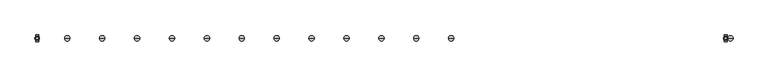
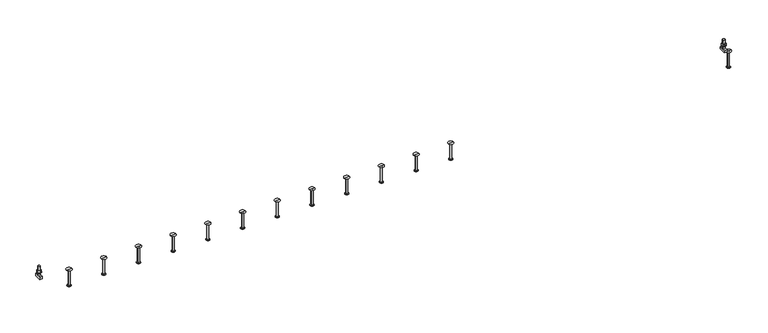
"""IFC4 building model written with IfcOpenShell, lengths in millimetres: fastener geometry, JTA-W JORDAHL® AnchorChannels : JTA-W L=6000 mm."""

from ifc_helpers import new_model, si_unit, point, frame, frame_2d, origin, place, context, project, spatial, polyline, circle_curve, trimmed, segment, composite_curve, outline, extrude, source, transform, mapped, element, save
from ifc_brep_helpers import plane_surface, cylinder_surface, revolved_surface, advanced_brep


def fastener_dd1fd8bc(model_context):
    return source(origin(), model_context, "Body", "SolidModel", [
        advanced_brep(
        [(3593.0, 0.0, -48.0), (3616.0, 0.0, -48.0), (3570.0, 0.0, -48.0), (3577.5, 0.0, -195.0), (3608.5, 0.0, -195.0), (3593.0, 0.0, -195.0), (3577.5, 0.0, -193.0), (3608.5, 0.0, -193.0), (3585.2, 0.0, -188.5544029), (3600.8, 0.0, -188.5544029), (3585.2, 0.0, -52.0), (3600.8, 0.0, -52.0)],
        [
            (0, 1),
            (1, 2, circle_curve(frame((3593.0, 0.0, -48.0), z_axis=(0.0, 0.0, 1.0), x_axis=(1.0, 0.0, 0.0)), 23.0)),
            (2, 0),
            (2, 1, circle_curve(frame((3593.0, 0.0, -48.0), z_axis=(0.0, 0.0, 1.0), x_axis=(1.0, 0.0, 0.0)), 23.0)),
            (3, 4, circle_curve(frame((3593.0, 0.0, -195.0), z_axis=(0.0, 0.0, -1.0), x_axis=(1.0, 0.0, 0.0)), 15.5)),
            (4, 5),
            (5, 3),
            (4, 3, circle_curve(frame((3593.0, 0.0, -195.0), z_axis=(0.0, 0.0, -1.0), x_axis=(1.0, 0.0, 0.0)), 15.5)),
            (6, 7, circle_curve(frame((3593.0, 0.0, -193.0), z_axis=(0.0, 0.0, -1.0), x_axis=(1.0, 0.0, 0.0)), 15.5)),
            (7, 4),
            (3, 6),
            (7, 6, circle_curve(frame((3593.0, 0.0, -193.0), z_axis=(0.0, 0.0, -1.0), x_axis=(1.0, 0.0, 0.0)), 15.5)),
            (8, 9, circle_curve(frame((3593.0, 0.0, -188.5544029), z_axis=(0.0, 0.0, -1.0), x_axis=(1.0, 0.0, 0.0)), 7.8)),
            (9, 7),
            (6, 8),
            (9, 8, circle_curve(frame((3593.0, 0.0, -188.5544029), z_axis=(0.0, 0.0, -1.0), x_axis=(1.0, 0.0, 0.0)), 7.8)),
            (10, 11, circle_curve(frame((3593.0, 0.0, -52.0), z_axis=(0.0, 0.0, -1.0), x_axis=(1.0, 0.0, 0.0)), 7.8)),
            (11, 9),
            (8, 10),
            (11, 10, circle_curve(frame((3593.0, 0.0, -52.0), z_axis=(0.0, 0.0, -1.0), x_axis=(1.0, 0.0, 0.0)), 7.8)),
            (1, 11),
            (10, 2),
        ],
        [
            plane_surface(frame((3593.0, 0.0, -48.0), z_axis=(0.0, 0.0, 1.0), x_axis=(1.0, 0.0, 0.0))),
            plane_surface(frame((3593.0, 0.0, -195.0), z_axis=(0.0, 0.0, -1.0), x_axis=(1.0, 0.0, 0.0))),
            cylinder_surface(frame((3593.0, 0.0, 2361.3150031), z_axis=(0.0, 0.0, 1.0), x_axis=(1.0, 0.0, 0.0)), 15.5),
            revolved_surface(polyline([(3608.5, 0.0, -193.0), (3600.8, 0.0, -188.5544029)]), (3593.0, 0.0, 2361.3150031), (0.0, 0.0, 1.0)),
            cylinder_surface(frame((3593.0, 0.0, 2361.3150031), z_axis=(0.0, 0.0, 1.0), x_axis=(1.0, 0.0, 0.0)), 7.8),
            revolved_surface(polyline([(3600.8, 0.0, -52.0), (3616.0, 0.0, -48.0)]), (3593.0, 0.0, 2361.3150031), (0.0, 0.0, 1.0)),
        ],
        [
            (0, [[1, 2, 3]]),
            (0, [[-3, 4, -1]]),
            (1, [[5, 6, 7]]),
            (1, [[8, -7, -6]]),
            (2, [[9, 10, -5, 11]]),
            (2, [[12, -11, -8, -10]]),
            (3, [[13, 14, -9, 15]]),
            (3, [[16, -15, -12, -14]]),
            (4, [[17, 18, -13, 19]]),
            (4, [[20, -19, -16, -18]]),
            (5, [[-2, 21, -17, 22]]),
            (5, [[-4, -22, -20, -21]]),
        ],
    ),
        advanced_brep(
        [(3296.5, 0.0, -48.0), (3319.5, 0.0, -48.0), (3273.5, 0.0, -48.0), (3281.0, 0.0, -195.0), (3312.0, 0.0, -195.0), (3296.5, 0.0, -195.0), (3281.0, 0.0, -193.0), (3312.0, 0.0, -193.0), (3288.7, 0.0, -188.5544029), (3304.3, 0.0, -188.5544029), (3288.7, 0.0, -52.0), (3304.3, 0.0, -52.0)],
        [
            (0, 1),
            (1, 2, circle_curve(frame((3296.5, 0.0, -48.0), z_axis=(0.0, 0.0, 1.0), x_axis=(1.0, 0.0, 0.0)), 23.0)),
            (2, 0),
            (2, 1, circle_curve(frame((3296.5, 0.0, -48.0), z_axis=(0.0, 0.0, 1.0), x_axis=(1.0, 0.0, 0.0)), 23.0)),
            (3, 4, circle_curve(frame((3296.5, 0.0, -195.0), z_axis=(0.0, 0.0, -1.0), x_axis=(1.0, 0.0, 0.0)), 15.5)),
            (4, 5),
            (5, 3),
            (4, 3, circle_curve(frame((3296.5, 0.0, -195.0), z_axis=(0.0, 0.0, -1.0), x_axis=(1.0, 0.0, 0.0)), 15.5)),
            (6, 7, circle_curve(frame((3296.5, 0.0, -193.0), z_axis=(0.0, 0.0, -1.0), x_axis=(1.0, 0.0, 0.0)), 15.5)),
            (7, 4),
            (3, 6),
            (7, 6, circle_curve(frame((3296.5, 0.0, -193.0), z_axis=(0.0, 0.0, -1.0), x_axis=(1.0, 0.0, 0.0)), 15.5)),
            (8, 9, circle_curve(frame((3296.5, 0.0, -188.5544029), z_axis=(0.0, 0.0, -1.0), x_axis=(1.0, 0.0, 0.0)), 7.8)),
            (9, 7),
            (6, 8),
            (9, 8, circle_curve(frame((3296.5, 0.0, -188.5544029), z_axis=(0.0, 0.0, -1.0), x_axis=(1.0, 0.0, 0.0)), 7.8)),
            (10, 11, circle_curve(frame((3296.5, 0.0, -52.0), z_axis=(0.0, 0.0, -1.0), x_axis=(1.0, 0.0, 0.0)), 7.8)),
            (11, 9),
            (8, 10),
            (11, 10, circle_curve(frame((3296.5, 0.0, -52.0), z_axis=(0.0, 0.0, -1.0), x_axis=(1.0, 0.0, 0.0)), 7.8)),
            (1, 11),
            (10, 2),
        ],
        [
            plane_surface(frame((3296.5, 0.0, -48.0), z_axis=(0.0, 0.0, 1.0), x_axis=(1.0, 0.0, 0.0))),
            plane_surface(frame((3296.5, 0.0, -195.0), z_axis=(0.0, 0.0, -1.0), x_axis=(1.0, 0.0, 0.0))),
            cylinder_surface(frame((3296.5, 0.0, 2361.3150031), z_axis=(0.0, 0.0, 1.0), x_axis=(1.0, 0.0, 0.0)), 15.5),
            revolved_surface(polyline([(3312.0, 0.0, -193.0), (3304.3, 0.0, -188.5544029)]), (3296.5, 0.0, 2361.3150031), (0.0, 0.0, 1.0)),
            cylinder_surface(frame((3296.5, 0.0, 2361.3150031), z_axis=(0.0, 0.0, 1.0), x_axis=(1.0, 0.0, 0.0)), 7.8),
            revolved_surface(polyline([(3304.3, 0.0, -52.0), (3319.5, 0.0, -48.0)]), (3296.5, 0.0, 2361.3150031), (0.0, 0.0, 1.0)),
        ],
        [
            (0, [[1, 2, 3]]),
            (0, [[-3, 4, -1]]),
            (1, [[5, 6, 7]]),
            (1, [[8, -7, -6]]),
            (2, [[9, 10, -5, 11]]),
            (2, [[12, -11, -8, -10]]),
            (3, [[13, 14, -9, 15]]),
            (3, [[16, -15, -12, -14]]),
            (4, [[17, 18, -13, 19]]),
            (4, [[20, -19, -16, -18]]),
            (5, [[-2, 21, -17, 22]]),
            (5, [[-4, -22, -20, -21]]),
        ],
    ),
        advanced_brep(
        [(3000.0, 0.0, -48.0), (3023.0, 0.0, -48.0), (2977.0, 0.0, -48.0), (2984.5, 0.0, -195.0), (3015.5, 0.0, -195.0), (3000.0, 0.0, -195.0), (2984.5, 0.0, -193.0), (3015.5, 0.0, -193.0), (2992.2, 0.0, -188.5544029), (3007.8, 0.0, -188.5544029), (2992.2, 0.0, -52.0), (3007.8, 0.0, -52.0)],
        [
            (0, 1),
            (1, 2, circle_curve(frame((3000.0, 0.0, -48.0), z_axis=(0.0, 0.0, 1.0), x_axis=(1.0, 0.0, 0.0)), 23.0)),
            (2, 0),
            (2, 1, circle_curve(frame((3000.0, 0.0, -48.0), z_axis=(0.0, 0.0, 1.0), x_axis=(1.0, 0.0, 0.0)), 23.0)),
            (3, 4, circle_curve(frame((3000.0, 0.0, -195.0), z_axis=(0.0, 0.0, -1.0), x_axis=(1.0, 0.0, 0.0)), 15.5)),
            (4, 5),
            (5, 3),
            (4, 3, circle_curve(frame((3000.0, 0.0, -195.0), z_axis=(0.0, 0.0, -1.0), x_axis=(1.0, 0.0, 0.0)), 15.5)),
            (6, 7, circle_curve(frame((3000.0, 0.0, -193.0), z_axis=(0.0, 0.0, -1.0), x_axis=(1.0, 0.0, 0.0)), 15.5)),
            (7, 4),
            (3, 6),
            (7, 6, circle_curve(frame((3000.0, 0.0, -193.0), z_axis=(0.0, 0.0, -1.0), x_axis=(1.0, 0.0, 0.0)), 15.5)),
            (8, 9, circle_curve(frame((3000.0, 0.0, -188.5544029), z_axis=(0.0, 0.0, -1.0), x_axis=(1.0, 0.0, 0.0)), 7.8)),
            (9, 7),
            (6, 8),
            (9, 8, circle_curve(frame((3000.0, 0.0, -188.5544029), z_axis=(0.0, 0.0, -1.0), x_axis=(1.0, 0.0, 0.0)), 7.8)),
            (10, 11, circle_curve(frame((3000.0, 0.0, -52.0), z_axis=(0.0, 0.0, -1.0), x_axis=(1.0, 0.0, 0.0)), 7.8)),
            (11, 9),
            (8, 10),
            (11, 10, circle_curve(frame((3000.0, 0.0, -52.0), z_axis=(0.0, 0.0, -1.0), x_axis=(1.0, 0.0, 0.0)), 7.8)),
            (1, 11),
            (10, 2),
        ],
        [
            plane_surface(frame((3000.0, 0.0, -48.0), z_axis=(0.0, 0.0, 1.0), x_axis=(1.0, 0.0, 0.0))),
            plane_surface(frame((3000.0, 0.0, -195.0), z_axis=(0.0, 0.0, -1.0), x_axis=(1.0, 0.0, 0.0))),
            cylinder_surface(frame((3000.0, 0.0, 2361.3150031), z_axis=(0.0, 0.0, 1.0), x_axis=(1.0, 0.0, 0.0)), 15.5),
            revolved_surface(polyline([(3015.5, 0.0, -193.0), (3007.8, 0.0, -188.5544029)]), (3000.0, 0.0, 2361.3150031), (0.0, 0.0, 1.0)),
            cylinder_surface(frame((3000.0, 0.0, 2361.3150031), z_axis=(0.0, 0.0, 1.0), x_axis=(1.0, 0.0, 0.0)), 7.8),
            revolved_surface(polyline([(3007.8, 0.0, -52.0), (3023.0, 0.0, -48.0)]), (3000.0, 0.0, 2361.3150031), (0.0, 0.0, 1.0)),
        ],
        [
            (0, [[1, 2, 3]]),
            (0, [[-3, 4, -1]]),
            (1, [[5, 6, 7]]),
            (1, [[8, -7, -6]]),
            (2, [[9, 10, -5, 11]]),
            (2, [[12, -11, -8, -10]]),
            (3, [[13, 14, -9, 15]]),
            (3, [[16, -15, -12, -14]]),
            (4, [[17, 18, -13, 19]]),
            (4, [[20, -19, -16, -18]]),
            (5, [[-2, 21, -17, 22]]),
            (5, [[-4, -22, -20, -21]]),
        ],
    ),
        advanced_brep(
        [(2703.5, 0.0, -48.0), (2726.5, 0.0, -48.0), (2680.5, 0.0, -48.0), (2688.0, 0.0, -195.0), (2719.0, 0.0, -195.0), (2703.5, 0.0, -195.0), (2688.0, 0.0, -193.0), (2719.0, 0.0, -193.0), (2695.7, 0.0, -188.5544029), (2711.3, 0.0, -188.5544029), (2695.7, 0.0, -52.0), (2711.3, 0.0, -52.0)],
        [
            (0, 1),
            (1, 2, circle_curve(frame((2703.5, 0.0, -48.0), z_axis=(0.0, 0.0, 1.0), x_axis=(1.0, 0.0, 0.0)), 23.0)),
            (2, 0),
            (2, 1, circle_curve(frame((2703.5, 0.0, -48.0), z_axis=(0.0, 0.0, 1.0), x_axis=(1.0, 0.0, 0.0)), 23.0)),
            (3, 4, circle_curve(frame((2703.5, 0.0, -195.0), z_axis=(0.0, 0.0, -1.0), x_axis=(1.0, 0.0, 0.0)), 15.5)),
            (4, 5),
            (5, 3),
            (4, 3, circle_curve(frame((2703.5, 0.0, -195.0), z_axis=(0.0, 0.0, -1.0), x_axis=(1.0, 0.0, 0.0)), 15.5)),
            (6, 7, circle_curve(frame((2703.5, 0.0, -193.0), z_axis=(0.0, 0.0, -1.0), x_axis=(1.0, 0.0, 0.0)), 15.5)),
            (7, 4),
            (3, 6),
            (7, 6, circle_curve(frame((2703.5, 0.0, -193.0), z_axis=(0.0, 0.0, -1.0), x_axis=(1.0, 0.0, 0.0)), 15.5)),
            (8, 9, circle_curve(frame((2703.5, 0.0, -188.5544029), z_axis=(0.0, 0.0, -1.0), x_axis=(1.0, 0.0, 0.0)), 7.8)),
            (9, 7),
            (6, 8),
            (9, 8, circle_curve(frame((2703.5, 0.0, -188.5544029), z_axis=(0.0, 0.0, -1.0), x_axis=(1.0, 0.0, 0.0)), 7.8)),
            (10, 11, circle_curve(frame((2703.5, 0.0, -52.0), z_axis=(0.0, 0.0, -1.0), x_axis=(1.0, 0.0, 0.0)), 7.8)),
            (11, 9),
            (8, 10),
            (11, 10, circle_curve(frame((2703.5, 0.0, -52.0), z_axis=(0.0, 0.0, -1.0), x_axis=(1.0, 0.0, 0.0)), 7.8)),
            (1, 11),
            (10, 2),
        ],
        [
            plane_surface(frame((2703.5, 0.0, -48.0), z_axis=(0.0, 0.0, 1.0), x_axis=(1.0, 0.0, 0.0))),
            plane_surface(frame((2703.5, 0.0, -195.0), z_axis=(0.0, 0.0, -1.0), x_axis=(1.0, 0.0, 0.0))),
            cylinder_surface(frame((2703.5, 0.0, 2361.3150031), z_axis=(0.0, 0.0, 1.0), x_axis=(1.0, 0.0, 0.0)), 15.5),
            revolved_surface(polyline([(2719.0, 0.0, -193.0), (2711.3, 0.0, -188.5544029)]), (2703.5, 0.0, 2361.3150031), (0.0, 0.0, 1.0)),
            cylinder_surface(frame((2703.5, 0.0, 2361.3150031), z_axis=(0.0, 0.0, 1.0), x_axis=(1.0, 0.0, 0.0)), 7.8),
            revolved_surface(polyline([(2711.3, 0.0, -52.0), (2726.5, 0.0, -48.0)]), (2703.5, 0.0, 2361.3150031), (0.0, 0.0, 1.0)),
        ],
        [
            (0, [[1, 2, 3]]),
            (0, [[-3, 4, -1]]),
            (1, [[5, 6, 7]]),
            (1, [[8, -7, -6]]),
            (2, [[9, 10, -5, 11]]),
            (2, [[12, -11, -8, -10]]),
            (3, [[13, 14, -9, 15]]),
            (3, [[16, -15, -12, -14]]),
            (4, [[17, 18, -13, 19]]),
            (4, [[20, -19, -16, -18]]),
            (5, [[-2, 21, -17, 22]]),
            (5, [[-4, -22, -20, -21]]),
        ],
    ),
        advanced_brep(
        [(2407.0, 0.0, -48.0), (2430.0, 0.0, -48.0), (2384.0, 0.0, -48.0), (2391.5, 0.0, -195.0), (2422.5, 0.0, -195.0), (2407.0, 0.0, -195.0), (2391.5, 0.0, -193.0), (2422.5, 0.0, -193.0), (2399.2, 0.0, -188.5544029), (2414.8, 0.0, -188.5544029), (2399.2, 0.0, -52.0), (2414.8, 0.0, -52.0)],
        [
            (0, 1),
            (1, 2, circle_curve(frame((2407.0, 0.0, -48.0), z_axis=(0.0, 0.0, 1.0), x_axis=(1.0, 0.0, 0.0)), 23.0)),
            (2, 0),
            (2, 1, circle_curve(frame((2407.0, 0.0, -48.0), z_axis=(0.0, 0.0, 1.0), x_axis=(1.0, 0.0, 0.0)), 23.0)),
            (3, 4, circle_curve(frame((2407.0, 0.0, -195.0), z_axis=(0.0, 0.0, -1.0), x_axis=(1.0, 0.0, 0.0)), 15.5)),
            (4, 5),
            (5, 3),
            (4, 3, circle_curve(frame((2407.0, 0.0, -195.0), z_axis=(0.0, 0.0, -1.0), x_axis=(1.0, 0.0, 0.0)), 15.5)),
            (6, 7, circle_curve(frame((2407.0, 0.0, -193.0), z_axis=(0.0, 0.0, -1.0), x_axis=(1.0, 0.0, 0.0)), 15.5)),
            (7, 4),
            (3, 6),
            (7, 6, circle_curve(frame((2407.0, 0.0, -193.0), z_axis=(0.0, 0.0, -1.0), x_axis=(1.0, 0.0, 0.0)), 15.5)),
            (8, 9, circle_curve(frame((2407.0, 0.0, -188.5544029), z_axis=(0.0, 0.0, -1.0), x_axis=(1.0, 0.0, 0.0)), 7.8)),
            (9, 7),
            (6, 8),
            (9, 8, circle_curve(frame((2407.0, 0.0, -188.5544029), z_axis=(0.0, 0.0, -1.0), x_axis=(1.0, 0.0, 0.0)), 7.8)),
            (10, 11, circle_curve(frame((2407.0, 0.0, -52.0), z_axis=(0.0, 0.0, -1.0), x_axis=(1.0, 0.0, 0.0)), 7.8)),
            (11, 9),
            (8, 10),
            (11, 10, circle_curve(frame((2407.0, 0.0, -52.0), z_axis=(0.0, 0.0, -1.0), x_axis=(1.0, 0.0, 0.0)), 7.8)),
            (1, 11),
            (10, 2),
        ],
        [
            plane_surface(frame((2407.0, 0.0, -48.0), z_axis=(0.0, 0.0, 1.0), x_axis=(1.0, 0.0, 0.0))),
            plane_surface(frame((2407.0, 0.0, -195.0), z_axis=(0.0, 0.0, -1.0), x_axis=(1.0, 0.0, 0.0))),
            cylinder_surface(frame((2407.0, 0.0, 2361.3150031), z_axis=(0.0, 0.0, 1.0), x_axis=(1.0, 0.0, 0.0)), 15.5),
            revolved_surface(polyline([(2422.5, 0.0, -193.0), (2414.8, 0.0, -188.5544029)]), (2407.0, 0.0, 2361.3150031), (0.0, 0.0, 1.0)),
            cylinder_surface(frame((2407.0, 0.0, 2361.3150031), z_axis=(0.0, 0.0, 1.0), x_axis=(1.0, 0.0, 0.0)), 7.8),
            revolved_surface(polyline([(2414.8, 0.0, -52.0), (2430.0, 0.0, -48.0)]), (2407.0, 0.0, 2361.3150031), (0.0, 0.0, 1.0)),
        ],
        [
            (0, [[1, 2, 3]]),
            (0, [[-3, 4, -1]]),
            (1, [[5, 6, 7]]),
            (1, [[8, -7, -6]]),
            (2, [[9, 10, -5, 11]]),
            (2, [[12, -11, -8, -10]]),
            (3, [[13, 14, -9, 15]]),
            (3, [[16, -15, -12, -14]]),
            (4, [[17, 18, -13, 19]]),
            (4, [[20, -19, -16, -18]]),
            (5, [[-2, 21, -17, 22]]),
            (5, [[-4, -22, -20, -21]]),
        ],
    ),
        advanced_brep(
        [(2110.5, 0.0, -48.0), (2133.5, 0.0, -48.0), (2087.5, 0.0, -48.0), (2095.0, 0.0, -195.0), (2126.0, 0.0, -195.0), (2110.5, 0.0, -195.0), (2095.0, 0.0, -193.0), (2126.0, 0.0, -193.0), (2102.7, 0.0, -188.5544029), (2118.3, 0.0, -188.5544029), (2102.7, 0.0, -52.0), (2118.3, 0.0, -52.0)],
        [
            (0, 1),
            (1, 2, circle_curve(frame((2110.5, 0.0, -48.0), z_axis=(0.0, 0.0, 1.0), x_axis=(1.0, 0.0, 0.0)), 23.0)),
            (2, 0),
            (2, 1, circle_curve(frame((2110.5, 0.0, -48.0), z_axis=(0.0, 0.0, 1.0), x_axis=(1.0, 0.0, 0.0)), 23.0)),
            (3, 4, circle_curve(frame((2110.5, 0.0, -195.0), z_axis=(0.0, 0.0, -1.0), x_axis=(1.0, 0.0, 0.0)), 15.5)),
            (4, 5),
            (5, 3),
            (4, 3, circle_curve(frame((2110.5, 0.0, -195.0), z_axis=(0.0, 0.0, -1.0), x_axis=(1.0, 0.0, 0.0)), 15.5)),
            (6, 7, circle_curve(frame((2110.5, 0.0, -193.0), z_axis=(0.0, 0.0, -1.0), x_axis=(1.0, 0.0, 0.0)), 15.5)),
            (7, 4),
            (3, 6),
            (7, 6, circle_curve(frame((2110.5, 0.0, -193.0), z_axis=(0.0, 0.0, -1.0), x_axis=(1.0, 0.0, 0.0)), 15.5)),
            (8, 9, circle_curve(frame((2110.5, 0.0, -188.5544029), z_axis=(0.0, 0.0, -1.0), x_axis=(1.0, 0.0, 0.0)), 7.8)),
            (9, 7),
            (6, 8),
            (9, 8, circle_curve(frame((2110.5, 0.0, -188.5544029), z_axis=(0.0, 0.0, -1.0), x_axis=(1.0, 0.0, 0.0)), 7.8)),
            (10, 11, circle_curve(frame((2110.5, 0.0, -52.0), z_axis=(0.0, 0.0, -1.0), x_axis=(1.0, 0.0, 0.0)), 7.8)),
            (11, 9),
            (8, 10),
            (11, 10, circle_curve(frame((2110.5, 0.0, -52.0), z_axis=(0.0, 0.0, -1.0), x_axis=(1.0, 0.0, 0.0)), 7.8)),
            (1, 11),
            (10, 2),
        ],
        [
            plane_surface(frame((2110.5, 0.0, -48.0), z_axis=(0.0, 0.0, 1.0), x_axis=(1.0, 0.0, 0.0))),
            plane_surface(frame((2110.5, 0.0, -195.0), z_axis=(0.0, 0.0, -1.0), x_axis=(1.0, 0.0, 0.0))),
            cylinder_surface(frame((2110.5, 0.0, 2361.3150031), z_axis=(0.0, 0.0, 1.0), x_axis=(1.0, 0.0, 0.0)), 15.5),
            revolved_surface(polyline([(2126.0, 0.0, -193.0), (2118.3, 0.0, -188.5544029)]), (2110.5, 0.0, 2361.3150031), (0.0, 0.0, 1.0)),
            cylinder_surface(frame((2110.5, 0.0, 2361.3150031), z_axis=(0.0, 0.0, 1.0), x_axis=(1.0, 0.0, 0.0)), 7.8),
            revolved_surface(polyline([(2118.3, 0.0, -52.0), (2133.5, 0.0, -48.0)]), (2110.5, 0.0, 2361.3150031), (0.0, 0.0, 1.0)),
        ],
        [
            (0, [[1, 2, 3]]),
            (0, [[-3, 4, -1]]),
            (1, [[5, 6, 7]]),
            (1, [[8, -7, -6]]),
            (2, [[9, 10, -5, 11]]),
            (2, [[12, -11, -8, -10]]),
            (3, [[13, 14, -9, 15]]),
            (3, [[16, -15, -12, -14]]),
            (4, [[17, 18, -13, 19]]),
            (4, [[20, -19, -16, -18]]),
            (5, [[-2, 21, -17, 22]]),
            (5, [[-4, -22, -20, -21]]),
        ],
    ),
        advanced_brep(
        [(1814.0, 0.0, -48.0), (1837.0, 0.0, -48.0), (1791.0, 0.0, -48.0), (1798.5, 0.0, -195.0), (1829.5, 0.0, -195.0), (1814.0, 0.0, -195.0), (1798.5, 0.0, -193.0), (1829.5, 0.0, -193.0), (1806.2, 0.0, -188.5544029), (1821.8, 0.0, -188.5544029), (1806.2, 0.0, -52.0), (1821.8, 0.0, -52.0)],
        [
            (0, 1),
            (1, 2, circle_curve(frame((1814.0, 0.0, -48.0), z_axis=(0.0, 0.0, 1.0), x_axis=(1.0, 0.0, 0.0)), 23.0)),
            (2, 0),
            (2, 1, circle_curve(frame((1814.0, 0.0, -48.0), z_axis=(0.0, 0.0, 1.0), x_axis=(1.0, 0.0, 0.0)), 23.0)),
            (3, 4, circle_curve(frame((1814.0, 0.0, -195.0), z_axis=(0.0, 0.0, -1.0), x_axis=(1.0, 0.0, 0.0)), 15.5)),
            (4, 5),
            (5, 3),
            (4, 3, circle_curve(frame((1814.0, 0.0, -195.0), z_axis=(0.0, 0.0, -1.0), x_axis=(1.0, 0.0, 0.0)), 15.5)),
            (6, 7, circle_curve(frame((1814.0, 0.0, -193.0), z_axis=(0.0, 0.0, -1.0), x_axis=(1.0, 0.0, 0.0)), 15.5)),
            (7, 4),
            (3, 6),
            (7, 6, circle_curve(frame((1814.0, 0.0, -193.0), z_axis=(0.0, 0.0, -1.0), x_axis=(1.0, 0.0, 0.0)), 15.5)),
            (8, 9, circle_curve(frame((1814.0, 0.0, -188.5544029), z_axis=(0.0, 0.0, -1.0), x_axis=(1.0, 0.0, 0.0)), 7.8)),
            (9, 7),
            (6, 8),
            (9, 8, circle_curve(frame((1814.0, 0.0, -188.5544029), z_axis=(0.0, 0.0, -1.0), x_axis=(1.0, 0.0, 0.0)), 7.8)),
            (10, 11, circle_curve(frame((1814.0, 0.0, -52.0), z_axis=(0.0, 0.0, -1.0), x_axis=(1.0, 0.0, 0.0)), 7.8)),
            (11, 9),
            (8, 10),
            (11, 10, circle_curve(frame((1814.0, 0.0, -52.0), z_axis=(0.0, 0.0, -1.0), x_axis=(1.0, 0.0, 0.0)), 7.8)),
            (1, 11),
            (10, 2),
        ],
        [
            plane_surface(frame((1814.0, 0.0, -48.0), z_axis=(0.0, 0.0, 1.0), x_axis=(1.0, 0.0, 0.0))),
            plane_surface(frame((1814.0, 0.0, -195.0), z_axis=(0.0, 0.0, -1.0), x_axis=(1.0, 0.0, 0.0))),
            cylinder_surface(frame((1814.0, 0.0, 2361.3150031), z_axis=(0.0, 0.0, 1.0), x_axis=(1.0, 0.0, 0.0)), 15.5),
            revolved_surface(polyline([(1829.5, 0.0, -193.0), (1821.8, 0.0, -188.5544029)]), (1814.0, 0.0, 2361.3150031), (0.0, 0.0, 1.0)),
            cylinder_surface(frame((1814.0, 0.0, 2361.3150031), z_axis=(0.0, 0.0, 1.0), x_axis=(1.0, 0.0, 0.0)), 7.8),
            revolved_surface(polyline([(1821.8, 0.0, -52.0), (1837.0, 0.0, -48.0)]), (1814.0, 0.0, 2361.3150031), (0.0, 0.0, 1.0)),
        ],
        [
            (0, [[1, 2, 3]]),
            (0, [[-3, 4, -1]]),
            (1, [[5, 6, 7]]),
            (1, [[8, -7, -6]]),
            (2, [[9, 10, -5, 11]]),
            (2, [[12, -11, -8, -10]]),
            (3, [[13, 14, -9, 15]]),
            (3, [[16, -15, -12, -14]]),
            (4, [[17, 18, -13, 19]]),
            (4, [[20, -19, -16, -18]]),
            (5, [[-2, 21, -17, 22]]),
            (5, [[-4, -22, -20, -21]]),
        ],
    ),
        advanced_brep(
        [(1517.5, 0.0, -48.0), (1540.5, 0.0, -48.0), (1494.5, 0.0, -48.0), (1502.0, 0.0, -195.0), (1533.0, 0.0, -195.0), (1517.5, 0.0, -195.0), (1502.0, 0.0, -193.0), (1533.0, 0.0, -193.0), (1509.7, 0.0, -188.5544029), (1525.3, 0.0, -188.5544029), (1509.7, 0.0, -52.0), (1525.3, 0.0, -52.0)],
        [
            (0, 1),
            (1, 2, circle_curve(frame((1517.5, 0.0, -48.0), z_axis=(0.0, 0.0, 1.0), x_axis=(1.0, 0.0, 0.0)), 23.0)),
            (2, 0),
            (2, 1, circle_curve(frame((1517.5, 0.0, -48.0), z_axis=(0.0, 0.0, 1.0), x_axis=(1.0, 0.0, 0.0)), 23.0)),
            (3, 4, circle_curve(frame((1517.5, 0.0, -195.0), z_axis=(0.0, 0.0, -1.0), x_axis=(1.0, 0.0, 0.0)), 15.5)),
            (4, 5),
            (5, 3),
            (4, 3, circle_curve(frame((1517.5, 0.0, -195.0), z_axis=(0.0, 0.0, -1.0), x_axis=(1.0, 0.0, 0.0)), 15.5)),
            (6, 7, circle_curve(frame((1517.5, 0.0, -193.0), z_axis=(0.0, 0.0, -1.0), x_axis=(1.0, 0.0, 0.0)), 15.5)),
            (7, 4),
            (3, 6),
            (7, 6, circle_curve(frame((1517.5, 0.0, -193.0), z_axis=(0.0, 0.0, -1.0), x_axis=(1.0, 0.0, 0.0)), 15.5)),
            (8, 9, circle_curve(frame((1517.5, 0.0, -188.5544029), z_axis=(0.0, 0.0, -1.0), x_axis=(1.0, 0.0, 0.0)), 7.8)),
            (9, 7),
            (6, 8),
            (9, 8, circle_curve(frame((1517.5, 0.0, -188.5544029), z_axis=(0.0, 0.0, -1.0), x_axis=(1.0, 0.0, 0.0)), 7.8)),
            (10, 11, circle_curve(frame((1517.5, 0.0, -52.0), z_axis=(0.0, 0.0, -1.0), x_axis=(1.0, 0.0, 0.0)), 7.8)),
            (11, 9),
            (8, 10),
            (11, 10, circle_curve(frame((1517.5, 0.0, -52.0), z_axis=(0.0, 0.0, -1.0), x_axis=(1.0, 0.0, 0.0)), 7.8)),
            (1, 11),
            (10, 2),
        ],
        [
            plane_surface(frame((1517.5, 0.0, -48.0), z_axis=(0.0, 0.0, 1.0), x_axis=(1.0, 0.0, 0.0))),
            plane_surface(frame((1517.5, 0.0, -195.0), z_axis=(0.0, 0.0, -1.0), x_axis=(1.0, 0.0, 0.0))),
            cylinder_surface(frame((1517.5, 0.0, 2361.3150031), z_axis=(0.0, 0.0, 1.0), x_axis=(1.0, 0.0, 0.0)), 15.5),
            revolved_surface(polyline([(1533.0, 0.0, -193.0), (1525.3, 0.0, -188.5544029)]), (1517.5, 0.0, 2361.3150031), (0.0, 0.0, 1.0)),
            cylinder_surface(frame((1517.5, 0.0, 2361.3150031), z_axis=(0.0, 0.0, 1.0), x_axis=(1.0, 0.0, 0.0)), 7.8),
            revolved_surface(polyline([(1525.3, 0.0, -52.0), (1540.5, 0.0, -48.0)]), (1517.5, 0.0, 2361.3150031), (0.0, 0.0, 1.0)),
        ],
        [
            (0, [[1, 2, 3]]),
            (0, [[-3, 4, -1]]),
            (1, [[5, 6, 7]]),
            (1, [[8, -7, -6]]),
            (2, [[9, 10, -5, 11]]),
            (2, [[12, -11, -8, -10]]),
            (3, [[13, 14, -9, 15]]),
            (3, [[16, -15, -12, -14]]),
            (4, [[17, 18, -13, 19]]),
            (4, [[20, -19, -16, -18]]),
            (5, [[-2, 21, -17, 22]]),
            (5, [[-4, -22, -20, -21]]),
        ],
    ),
        advanced_brep(
        [(1221.0, 0.0, -48.0), (1244.0, 0.0, -48.0), (1198.0, 0.0, -48.0), (1205.5, 0.0, -195.0), (1236.5, 0.0, -195.0), (1221.0, 0.0, -195.0), (1205.5, 0.0, -193.0), (1236.5, 0.0, -193.0), (1213.2, 0.0, -188.5544029), (1228.8, 0.0, -188.5544029), (1213.2, 0.0, -52.0), (1228.8, 0.0, -52.0)],
        [
            (0, 1),
            (1, 2, circle_curve(frame((1221.0, 0.0, -48.0), z_axis=(0.0, 0.0, 1.0), x_axis=(1.0, 0.0, 0.0)), 23.0)),
            (2, 0),
            (2, 1, circle_curve(frame((1221.0, 0.0, -48.0), z_axis=(0.0, 0.0, 1.0), x_axis=(1.0, 0.0, 0.0)), 23.0)),
            (3, 4, circle_curve(frame((1221.0, 0.0, -195.0), z_axis=(0.0, 0.0, -1.0), x_axis=(1.0, 0.0, 0.0)), 15.5)),
            (4, 5),
            (5, 3),
            (4, 3, circle_curve(frame((1221.0, 0.0, -195.0), z_axis=(0.0, 0.0, -1.0), x_axis=(1.0, 0.0, 0.0)), 15.5)),
            (6, 7, circle_curve(frame((1221.0, 0.0, -193.0), z_axis=(0.0, 0.0, -1.0), x_axis=(1.0, 0.0, 0.0)), 15.5)),
            (7, 4),
            (3, 6),
            (7, 6, circle_curve(frame((1221.0, 0.0, -193.0), z_axis=(0.0, 0.0, -1.0), x_axis=(1.0, 0.0, 0.0)), 15.5)),
            (8, 9, circle_curve(frame((1221.0, 0.0, -188.5544029), z_axis=(0.0, 0.0, -1.0), x_axis=(1.0, 0.0, 0.0)), 7.8)),
            (9, 7),
            (6, 8),
            (9, 8, circle_curve(frame((1221.0, 0.0, -188.5544029), z_axis=(0.0, 0.0, -1.0), x_axis=(1.0, 0.0, 0.0)), 7.8)),
            (10, 11, circle_curve(frame((1221.0, 0.0, -52.0), z_axis=(0.0, 0.0, -1.0), x_axis=(1.0, 0.0, 0.0)), 7.8)),
            (11, 9),
            (8, 10),
            (11, 10, circle_curve(frame((1221.0, 0.0, -52.0), z_axis=(0.0, 0.0, -1.0), x_axis=(1.0, 0.0, 0.0)), 7.8)),
            (1, 11),
            (10, 2),
        ],
        [
            plane_surface(frame((1221.0, 0.0, -48.0), z_axis=(0.0, 0.0, 1.0), x_axis=(1.0, 0.0, 0.0))),
            plane_surface(frame((1221.0, 0.0, -195.0), z_axis=(0.0, 0.0, -1.0), x_axis=(1.0, 0.0, 0.0))),
            cylinder_surface(frame((1221.0, 0.0, 2361.3150031), z_axis=(0.0, 0.0, 1.0), x_axis=(1.0, 0.0, 0.0)), 15.5),
            revolved_surface(polyline([(1236.5, 0.0, -193.0), (1228.8, 0.0, -188.5544029)]), (1221.0, 0.0, 2361.3150031), (0.0, 0.0, 1.0)),
            cylinder_surface(frame((1221.0, 0.0, 2361.3150031), z_axis=(0.0, 0.0, 1.0), x_axis=(1.0, 0.0, 0.0)), 7.8),
            revolved_surface(polyline([(1228.8, 0.0, -52.0), (1244.0, 0.0, -48.0)]), (1221.0, 0.0, 2361.3150031), (0.0, 0.0, 1.0)),
        ],
        [
            (0, [[1, 2, 3]]),
            (0, [[-3, 4, -1]]),
            (1, [[5, 6, 7]]),
            (1, [[8, -7, -6]]),
            (2, [[9, 10, -5, 11]]),
            (2, [[12, -11, -8, -10]]),
            (3, [[13, 14, -9, 15]]),
            (3, [[16, -15, -12, -14]]),
            (4, [[17, 18, -13, 19]]),
            (4, [[20, -19, -16, -18]]),
            (5, [[-2, 21, -17, 22]]),
            (5, [[-4, -22, -20, -21]]),
        ],
    ),
        advanced_brep(
        [(924.5, 0.0, -48.0), (947.5, 0.0, -48.0), (901.5, 0.0, -48.0), (909.0, 0.0, -195.0), (940.0, 0.0, -195.0), (924.5, 0.0, -195.0), (909.0, 0.0, -193.0), (940.0, 0.0, -193.0), (916.7, 0.0, -188.5544029), (932.3, 0.0, -188.5544029), (916.7, 0.0, -52.0), (932.3, 0.0, -52.0)],
        [
            (0, 1),
            (1, 2, circle_curve(frame((924.5, 0.0, -48.0), z_axis=(0.0, 0.0, 1.0), x_axis=(1.0, 0.0, 0.0)), 23.0)),
            (2, 0),
            (2, 1, circle_curve(frame((924.5, 0.0, -48.0), z_axis=(0.0, 0.0, 1.0), x_axis=(1.0, 0.0, 0.0)), 23.0)),
            (3, 4, circle_curve(frame((924.5, 0.0, -195.0), z_axis=(0.0, 0.0, -1.0), x_axis=(1.0, 0.0, 0.0)), 15.5)),
            (4, 5),
            (5, 3),
            (4, 3, circle_curve(frame((924.5, 0.0, -195.0), z_axis=(0.0, 0.0, -1.0), x_axis=(1.0, 0.0, 0.0)), 15.5)),
            (6, 7, circle_curve(frame((924.5, 0.0, -193.0), z_axis=(0.0, 0.0, -1.0), x_axis=(1.0, 0.0, 0.0)), 15.5)),
            (7, 4),
            (3, 6),
            (7, 6, circle_curve(frame((924.5, 0.0, -193.0), z_axis=(0.0, 0.0, -1.0), x_axis=(1.0, 0.0, 0.0)), 15.5)),
            (8, 9, circle_curve(frame((924.5, 0.0, -188.5544029), z_axis=(0.0, 0.0, -1.0), x_axis=(1.0, 0.0, 0.0)), 7.8)),
            (9, 7),
            (6, 8),
            (9, 8, circle_curve(frame((924.5, 0.0, -188.5544029), z_axis=(0.0, 0.0, -1.0), x_axis=(1.0, 0.0, 0.0)), 7.8)),
            (10, 11, circle_curve(frame((924.5, 0.0, -52.0), z_axis=(0.0, 0.0, -1.0), x_axis=(1.0, 0.0, 0.0)), 7.8)),
            (11, 9),
            (8, 10),
            (11, 10, circle_curve(frame((924.5, 0.0, -52.0), z_axis=(0.0, 0.0, -1.0), x_axis=(1.0, 0.0, 0.0)), 7.8)),
            (1, 11),
            (10, 2),
        ],
        [
            plane_surface(frame((924.5, 0.0, -48.0), z_axis=(0.0, 0.0, 1.0), x_axis=(1.0, 0.0, 0.0))),
            plane_surface(frame((924.5, 0.0, -195.0), z_axis=(0.0, 0.0, -1.0), x_axis=(1.0, 0.0, 0.0))),
            cylinder_surface(frame((924.5, 0.0, 2361.3150031), z_axis=(0.0, 0.0, 1.0), x_axis=(1.0, 0.0, 0.0)), 15.5),
            revolved_surface(polyline([(940.0, 0.0, -193.0), (932.3, 0.0, -188.5544029)]), (924.5, 0.0, 2361.3150031), (0.0, 0.0, 1.0)),
            cylinder_surface(frame((924.5, 0.0, 2361.3150031), z_axis=(0.0, 0.0, 1.0), x_axis=(1.0, 0.0, 0.0)), 7.8),
            revolved_surface(polyline([(932.3, 0.0, -52.0), (947.5, 0.0, -48.0)]), (924.5, 0.0, 2361.3150031), (0.0, 0.0, 1.0)),
        ],
        [
            (0, [[1, 2, 3]]),
            (0, [[-3, 4, -1]]),
            (1, [[5, 6, 7]]),
            (1, [[8, -7, -6]]),
            (2, [[9, 10, -5, 11]]),
            (2, [[12, -11, -8, -10]]),
            (3, [[13, 14, -9, 15]]),
            (3, [[16, -15, -12, -14]]),
            (4, [[17, 18, -13, 19]]),
            (4, [[20, -19, -16, -18]]),
            (5, [[-2, 21, -17, 22]]),
            (5, [[-4, -22, -20, -21]]),
        ],
    ),
        advanced_brep(
        [(628.0, 0.0, -48.0), (651.0, 0.0, -48.0), (605.0, 0.0, -48.0), (612.5, 0.0, -195.0), (643.5, 0.0, -195.0), (628.0, 0.0, -195.0), (612.5, 0.0, -193.0), (643.5, 0.0, -193.0), (620.2, 0.0, -188.5544029), (635.8, 0.0, -188.5544029), (620.2, 0.0, -52.0), (635.8, 0.0, -52.0)],
        [
            (0, 1),
            (1, 2, circle_curve(frame((628.0, 0.0, -48.0), z_axis=(0.0, 0.0, 1.0), x_axis=(1.0, 0.0, 0.0)), 23.0)),
            (2, 0),
            (2, 1, circle_curve(frame((628.0, 0.0, -48.0), z_axis=(0.0, 0.0, 1.0), x_axis=(1.0, 0.0, 0.0)), 23.0)),
            (3, 4, circle_curve(frame((628.0, 0.0, -195.0), z_axis=(0.0, 0.0, -1.0), x_axis=(1.0, 0.0, 0.0)), 15.5)),
            (4, 5),
            (5, 3),
            (4, 3, circle_curve(frame((628.0, 0.0, -195.0), z_axis=(0.0, 0.0, -1.0), x_axis=(1.0, 0.0, 0.0)), 15.5)),
            (6, 7, circle_curve(frame((628.0, 0.0, -193.0), z_axis=(0.0, 0.0, -1.0), x_axis=(1.0, 0.0, 0.0)), 15.5)),
            (7, 4),
            (3, 6),
            (7, 6, circle_curve(frame((628.0, 0.0, -193.0), z_axis=(0.0, 0.0, -1.0), x_axis=(1.0, 0.0, 0.0)), 15.5)),
            (8, 9, circle_curve(frame((628.0, 0.0, -188.5544029), z_axis=(0.0, 0.0, -1.0), x_axis=(1.0, 0.0, 0.0)), 7.8)),
            (9, 7),
            (6, 8),
            (9, 8, circle_curve(frame((628.0, 0.0, -188.5544029), z_axis=(0.0, 0.0, -1.0), x_axis=(1.0, 0.0, 0.0)), 7.8)),
            (10, 11, circle_curve(frame((628.0, 0.0, -52.0), z_axis=(0.0, 0.0, -1.0), x_axis=(1.0, 0.0, 0.0)), 7.8)),
            (11, 9),
            (8, 10),
            (11, 10, circle_curve(frame((628.0, 0.0, -52.0), z_axis=(0.0, 0.0, -1.0), x_axis=(1.0, 0.0, 0.0)), 7.8)),
            (1, 11),
            (10, 2),
        ],
        [
            plane_surface(frame((628.0, 0.0, -48.0), z_axis=(0.0, 0.0, 1.0), x_axis=(1.0, 0.0, 0.0))),
            plane_surface(frame((628.0, 0.0, -195.0), z_axis=(0.0, 0.0, -1.0), x_axis=(1.0, 0.0, 0.0))),
            cylinder_surface(frame((628.0, 0.0, 2361.3150031), z_axis=(0.0, 0.0, 1.0), x_axis=(1.0, 0.0, 0.0)), 15.5),
            revolved_surface(polyline([(643.5, 0.0, -193.0), (635.8, 0.0, -188.5544029)]), (628.0, 0.0, 2361.3150031), (0.0, 0.0, 1.0)),
            cylinder_surface(frame((628.0, 0.0, 2361.3150031), z_axis=(0.0, 0.0, 1.0), x_axis=(1.0, 0.0, 0.0)), 7.8),
            revolved_surface(polyline([(635.8, 0.0, -52.0), (651.0, 0.0, -48.0)]), (628.0, 0.0, 2361.3150031), (0.0, 0.0, 1.0)),
        ],
        [
            (0, [[1, 2, 3]]),
            (0, [[-3, 4, -1]]),
            (1, [[5, 6, 7]]),
            (1, [[8, -7, -6]]),
            (2, [[9, 10, -5, 11]]),
            (2, [[12, -11, -8, -10]]),
            (3, [[13, 14, -9, 15]]),
            (3, [[16, -15, -12, -14]]),
            (4, [[17, 18, -13, 19]]),
            (4, [[20, -19, -16, -18]]),
            (5, [[-2, 21, -17, 22]]),
            (5, [[-4, -22, -20, -21]]),
        ],
    ),
        advanced_brep(
        [(331.5, 0.0, -48.0), (354.5, 0.0, -48.0), (308.5, 0.0, -48.0), (316.0, 0.0, -195.0), (347.0, 0.0, -195.0), (331.5, 0.0, -195.0), (316.0, 0.0, -193.0), (347.0, 0.0, -193.0), (323.7, 0.0, -188.5544029), (339.3, 0.0, -188.5544029), (323.7, 0.0, -52.0), (339.3, 0.0, -52.0)],
        [
            (0, 1),
            (1, 2, circle_curve(frame((331.5, 0.0, -48.0), z_axis=(0.0, 0.0, 1.0), x_axis=(1.0, 0.0, 0.0)), 23.0)),
            (2, 0),
            (2, 1, circle_curve(frame((331.5, 0.0, -48.0), z_axis=(0.0, 0.0, 1.0), x_axis=(1.0, 0.0, 0.0)), 23.0)),
            (3, 4, circle_curve(frame((331.5, 0.0, -195.0), z_axis=(0.0, 0.0, -1.0), x_axis=(1.0, 0.0, 0.0)), 15.5)),
            (4, 5),
            (5, 3),
            (4, 3, circle_curve(frame((331.5, 0.0, -195.0), z_axis=(0.0, 0.0, -1.0), x_axis=(1.0, 0.0, 0.0)), 15.5)),
            (6, 7, circle_curve(frame((331.5, 0.0, -193.0), z_axis=(0.0, 0.0, -1.0), x_axis=(1.0, 0.0, 0.0)), 15.5)),
            (7, 4),
            (3, 6),
            (7, 6, circle_curve(frame((331.5, 0.0, -193.0), z_axis=(0.0, 0.0, -1.0), x_axis=(1.0, 0.0, 0.0)), 15.5)),
            (8, 9, circle_curve(frame((331.5, 0.0, -188.5544029), z_axis=(0.0, 0.0, -1.0), x_axis=(1.0, 0.0, 0.0)), 7.8)),
            (9, 7),
            (6, 8),
            (9, 8, circle_curve(frame((331.5, 0.0, -188.5544029), z_axis=(0.0, 0.0, -1.0), x_axis=(1.0, 0.0, 0.0)), 7.8)),
            (10, 11, circle_curve(frame((331.5, 0.0, -52.0), z_axis=(0.0, 0.0, -1.0), x_axis=(1.0, 0.0, 0.0)), 7.8)),
            (11, 9),
            (8, 10),
            (11, 10, circle_curve(frame((331.5, 0.0, -52.0), z_axis=(0.0, 0.0, -1.0), x_axis=(1.0, 0.0, 0.0)), 7.8)),
            (1, 11),
            (10, 2),
        ],
        [
            plane_surface(frame((331.5, 0.0, -48.0), z_axis=(0.0, 0.0, 1.0), x_axis=(1.0, 0.0, 0.0))),
            plane_surface(frame((331.5, 0.0, -195.0), z_axis=(0.0, 0.0, -1.0), x_axis=(1.0, 0.0, 0.0))),
            cylinder_surface(frame((331.5, 0.0, 2361.3150031), z_axis=(0.0, 0.0, 1.0), x_axis=(1.0, 0.0, 0.0)), 15.5),
            revolved_surface(polyline([(347.0, 0.0, -193.0), (339.3, 0.0, -188.5544029)]), (331.5, 0.0, 2361.3150031), (0.0, 0.0, 1.0)),
            cylinder_surface(frame((331.5, 0.0, 2361.3150031), z_axis=(0.0, 0.0, 1.0), x_axis=(1.0, 0.0, 0.0)), 7.8),
            revolved_surface(polyline([(339.3, 0.0, -52.0), (354.5, 0.0, -48.0)]), (331.5, 0.0, 2361.3150031), (0.0, 0.0, 1.0)),
        ],
        [
            (0, [[1, 2, 3]]),
            (0, [[-3, 4, -1]]),
            (1, [[5, 6, 7]]),
            (1, [[8, -7, -6]]),
            (2, [[9, 10, -5, 11]]),
            (2, [[12, -11, -8, -10]]),
            (3, [[13, 14, -9, 15]]),
            (3, [[16, -15, -12, -14]]),
            (4, [[17, 18, -13, 19]]),
            (4, [[20, -19, -16, -18]]),
            (5, [[-2, 21, -17, 22]]),
            (5, [[-4, -22, -20, -21]]),
        ],
    ),
        extrude(outline(polyline([(5925.0, 17.3205081), (5940.0, 8.660254), (5940.0, -8.660254), (5925.0, -17.3205081), (5910.0, -8.660254), (5910.0, 8.660254), (5925.0, 17.3205081)]), holes=[composite_curve([segment(trimmed(circle_curve(frame_2d((5925.0, 0.0)), 10.0), [point((5915.0, 0.0))], [point((5935.0, 0.0))], True, "CARTESIAN"), True, "CONTINUOUS"), segment(trimmed(circle_curve(frame_2d((5925.0, 0.0)), 10.0), [point((5935.0, 0.0))], [point((5915.0, 0.0))], True, "CARTESIAN"), True, "CONTINUOUS")], self_intersect=False)]), frame((0.0, 0.0, 18.0), z_axis=(0.0, 0.0, 1.0), x_axis=(1.0, 0.0, 0.0)), (0.0, 0.0, 1.0), 18.0),
        extrude(outline(composite_curve([segment(trimmed(circle_curve(frame_2d((5925.0, 0.0)), 18.5), [point((5906.5, 0.0))], [point((5943.5, 0.0))], False, "CARTESIAN"), True, "CONTINUOUS"), segment(trimmed(circle_curve(frame_2d((5925.0, 0.0)), 18.5), [point((5943.5, 0.0))], [point((5906.5, 0.0))], False, "CARTESIAN"), True, "CONTINUOUS")], self_intersect=False), holes=[composite_curve([segment(trimmed(circle_curve(frame_2d((5925.0, 0.0)), 10.5), [point((5914.5, 0.0))], [point((5935.5, 0.0))], True, "CARTESIAN"), True, "CONTINUOUS"), segment(trimmed(circle_curve(frame_2d((5925.0, 0.0)), 10.5), [point((5935.5, 0.0))], [point((5914.5, 0.0))], True, "CARTESIAN"), True, "CONTINUOUS")], self_intersect=False)]), frame((0.0, 0.0, 15.0), z_axis=(0.0, 0.0, 1.0), x_axis=(1.0, 0.0, 0.0)), (0.0, 0.0, 1.0), 3.0),
        extrude(outline(polyline([(75.0, 17.3205081), (90.0, 8.660254), (90.0, -8.660254), (75.0, -17.3205081), (60.0, -8.660254), (60.0, 8.660254), (75.0, 17.3205081)]), holes=[composite_curve([segment(trimmed(circle_curve(frame_2d((75.0, 0.0)), 10.0), [point((65.0, 0.0))], [point((85.0, 0.0))], True, "CARTESIAN"), True, "CONTINUOUS"), segment(trimmed(circle_curve(frame_2d((75.0, 0.0)), 10.0), [point((85.0, 0.0))], [point((65.0, 0.0))], True, "CARTESIAN"), True, "CONTINUOUS")], self_intersect=False)]), frame((0.0, 0.0, 18.0), z_axis=(0.0, 0.0, 1.0), x_axis=(1.0, 0.0, 0.0)), (0.0, 0.0, 1.0), 18.0),
        extrude(outline(composite_curve([segment(trimmed(circle_curve(frame_2d((75.0, 0.0)), 18.5), [point((56.5, 0.0))], [point((93.5, 0.0))], False, "CARTESIAN"), True, "CONTINUOUS"), segment(trimmed(circle_curve(frame_2d((75.0, 0.0)), 18.5), [point((93.5, 0.0))], [point((56.5, 0.0))], False, "CARTESIAN"), True, "CONTINUOUS")], self_intersect=False), holes=[composite_curve([segment(trimmed(circle_curve(frame_2d((75.0, 0.0)), 10.5), [point((64.5, 0.0))], [point((85.5, 0.0))], True, "CARTESIAN"), True, "CONTINUOUS"), segment(trimmed(circle_curve(frame_2d((75.0, 0.0)), 10.5), [point((85.5, 0.0))], [point((64.5, 0.0))], True, "CARTESIAN"), True, "CONTINUOUS")], self_intersect=False)]), frame((0.0, 0.0, 15.0), z_axis=(0.0, 0.0, 1.0), x_axis=(1.0, 0.0, 0.0)), (0.0, 0.0, 1.0), 3.0),
        advanced_brep(
        [(5937.5, 29.0, -10.0), (5937.5, -29.0, -10.0), (5937.5, -29.0, -30.0), (5937.5, 29.0, -30.0), (5912.5, 29.0, -10.0), (5912.5, 29.0, -30.0), (5912.5, -29.0, -30.0), (5912.5, -29.0, -10.0), (5935.0, 0.0, -10.0), (5915.0, 0.0, -10.0), (5915.0, 0.0, 70.0), (5935.0, 0.0, 70.0)],
        [
            (0, 1),
            (1, 2),
            (2, 3),
            (3, 0),
            (4, 5),
            (5, 6),
            (6, 7),
            (7, 4),
            (0, 4),
            (7, 1),
            (8, 9, circle_curve(frame((5925.0, 0.0, -10.0), z_axis=(0.0, 0.0, -1.0), x_axis=(1.0, 0.0, 0.0)), 10.0)),
            (9, 8, circle_curve(frame((5925.0, 0.0, -10.0), z_axis=(0.0, 0.0, -1.0), x_axis=(1.0, 0.0, 0.0)), 10.0)),
            (6, 2),
            (5, 3),
            (10, 11, circle_curve(frame((5925.0, 0.0, 70.0), z_axis=(0.0, 0.0, 1.0), x_axis=(1.0, 0.0, 0.0)), 10.0)),
            (11, 10, circle_curve(frame((5925.0, 0.0, 70.0), z_axis=(0.0, 0.0, 1.0), x_axis=(1.0, 0.0, 0.0)), 10.0)),
            (10, 9),
            (8, 11),
        ],
        [
            plane_surface(frame((5937.5, -29.0, -10.0), z_axis=(1.0, 0.0, 0.0), x_axis=(0.0, -1.0, 0.0))),
            plane_surface(frame((5912.5, -29.0, -10.0), z_axis=(-1.0, 0.0, 0.0), x_axis=(0.0, 1.0, 0.0))),
            plane_surface(frame((5937.5, 29.0, -10.0), z_axis=(0.0, 0.0, 1.0), x_axis=(-1.0, 0.0, 0.0))),
            plane_surface(frame((5937.5, -29.0, -10.0), z_axis=(0.0, -1.0, 0.0), x_axis=(-1.0, 0.0, 0.0))),
            plane_surface(frame((5937.5, -29.0, -30.0), z_axis=(0.0, 0.0, -1.0), x_axis=(-1.0, 0.0, 0.0))),
            plane_surface(frame((5937.5, 29.0, -30.0), z_axis=(0.0, 1.0, 0.0), x_axis=(-1.0, 0.0, 0.0))),
            plane_surface(frame((5935.0, 0.0, 70.0), z_axis=(0.0, 0.0, 1.0), x_axis=(0.0, 1.0, 0.0))),
            cylinder_surface(frame((5925.0, 0.0, -10.0), z_axis=(0.0, 0.0, 1.0), x_axis=(1.0, 0.0, 0.0)), 10.0),
        ],
        [
            (0, [[1, 2, 3, 4]]),
            (1, [[5, 6, 7, 8]]),
            (2, [[-1, 9, -8, 10], [11, 12]]),
            (3, [[-2, -10, -7, 13]]),
            (4, [[-3, -13, -6, 14]]),
            (5, [[-4, -14, -5, -9]]),
            (6, [[15, 16]]),
            (7, [[-15, 17, -11, 18]]),
            (7, [[-16, -18, -12, -17]]),
        ],
    ),
        advanced_brep(
        [(87.5, 29.0, -10.0), (87.5, -29.0, -10.0), (87.5, -29.0, -30.0), (87.5, 29.0, -30.0), (62.5, 29.0, -10.0), (62.5, 29.0, -30.0), (62.5, -29.0, -30.0), (62.5, -29.0, -10.0), (85.0, 0.0, -10.0), (65.0, 0.0, -10.0), (65.0, 0.0, 70.0), (85.0, 0.0, 70.0)],
        [
            (0, 1),
            (1, 2),
            (2, 3),
            (3, 0),
            (4, 5),
            (5, 6),
            (6, 7),
            (7, 4),
            (0, 4),
            (7, 1),
            (8, 9, circle_curve(frame((75.0, 0.0, -10.0), z_axis=(0.0, 0.0, -1.0), x_axis=(1.0, 0.0, 0.0)), 10.0)),
            (9, 8, circle_curve(frame((75.0, 0.0, -10.0), z_axis=(0.0, 0.0, -1.0), x_axis=(1.0, 0.0, 0.0)), 10.0)),
            (6, 2),
            (5, 3),
            (10, 11, circle_curve(frame((75.0, 0.0, 70.0), z_axis=(0.0, 0.0, 1.0), x_axis=(1.0, 0.0, 0.0)), 10.0)),
            (11, 10, circle_curve(frame((75.0, 0.0, 70.0), z_axis=(0.0, 0.0, 1.0), x_axis=(1.0, 0.0, 0.0)), 10.0)),
            (10, 9),
            (8, 11),
        ],
        [
            plane_surface(frame((87.5, -29.0, -10.0), z_axis=(1.0, 0.0, 0.0), x_axis=(0.0, -1.0, 0.0))),
            plane_surface(frame((62.5, -29.0, -10.0), z_axis=(-1.0, 0.0, 0.0), x_axis=(0.0, 1.0, 0.0))),
            plane_surface(frame((87.5, 29.0, -10.0), z_axis=(0.0, 0.0, 1.0), x_axis=(-1.0, 0.0, 0.0))),
            plane_surface(frame((87.5, -29.0, -10.0), z_axis=(0.0, -1.0, 0.0), x_axis=(-1.0, 0.0, 0.0))),
            plane_surface(frame((87.5, -29.0, -30.0), z_axis=(0.0, 0.0, -1.0), x_axis=(-1.0, 0.0, 0.0))),
            plane_surface(frame((87.5, 29.0, -30.0), z_axis=(0.0, 1.0, 0.0), x_axis=(-1.0, 0.0, 0.0))),
            plane_surface(frame((85.0, 0.0, 70.0), z_axis=(0.0, 0.0, 1.0), x_axis=(0.0, 1.0, 0.0))),
            cylinder_surface(frame((75.0, 0.0, -10.0), z_axis=(0.0, 0.0, 1.0), x_axis=(1.0, 0.0, 0.0)), 10.0),
        ],
        [
            (0, [[1, 2, 3, 4]]),
            (1, [[5, 6, 7, 8]]),
            (2, [[-1, 9, -8, 10], [11, 12]]),
            (3, [[-2, -10, -7, 13]]),
            (4, [[-3, -13, -6, 14]]),
            (5, [[-4, -14, -5, -9]]),
            (6, [[15, 16]]),
            (7, [[-15, 17, -11, 18]]),
            (7, [[-16, -18, -12, -17]]),
        ],
    ),
        advanced_brep(
        [(5965.0, 0.0, -48.0), (5988.0, 0.0, -48.0), (5942.0, 0.0, -48.0), (5949.5, 0.0, -195.0), (5980.5, 0.0, -195.0), (5965.0, 0.0, -195.0), (5949.5, 0.0, -193.0), (5980.5, 0.0, -193.0), (5957.2, 0.0, -188.5544029), (5972.8, 0.0, -188.5544029), (5957.2, 0.0, -52.0), (5972.8, 0.0, -52.0)],
        [
            (0, 1),
            (1, 2, circle_curve(frame((5965.0, 0.0, -48.0), z_axis=(0.0, 0.0, 1.0), x_axis=(1.0, 0.0, 0.0)), 23.0)),
            (2, 0),
            (2, 1, circle_curve(frame((5965.0, 0.0, -48.0), z_axis=(0.0, 0.0, 1.0), x_axis=(1.0, 0.0, 0.0)), 23.0)),
            (3, 4, circle_curve(frame((5965.0, 0.0, -195.0), z_axis=(0.0, 0.0, -1.0), x_axis=(1.0, 0.0, 0.0)), 15.5)),
            (4, 5),
            (5, 3),
            (4, 3, circle_curve(frame((5965.0, 0.0, -195.0), z_axis=(0.0, 0.0, -1.0), x_axis=(1.0, 0.0, 0.0)), 15.5)),
            (6, 7, circle_curve(frame((5965.0, 0.0, -193.0), z_axis=(0.0, 0.0, -1.0), x_axis=(1.0, 0.0, 0.0)), 15.5)),
            (7, 4),
            (3, 6),
            (7, 6, circle_curve(frame((5965.0, 0.0, -193.0), z_axis=(0.0, 0.0, -1.0), x_axis=(1.0, 0.0, 0.0)), 15.5)),
            (8, 9, circle_curve(frame((5965.0, 0.0, -188.5544029), z_axis=(0.0, 0.0, -1.0), x_axis=(1.0, 0.0, 0.0)), 7.8)),
            (9, 7),
            (6, 8),
            (9, 8, circle_curve(frame((5965.0, 0.0, -188.5544029), z_axis=(0.0, 0.0, -1.0), x_axis=(1.0, 0.0, 0.0)), 7.8)),
            (10, 11, circle_curve(frame((5965.0, 0.0, -52.0), z_axis=(0.0, 0.0, -1.0), x_axis=(1.0, 0.0, 0.0)), 7.8)),
            (11, 9),
            (8, 10),
            (11, 10, circle_curve(frame((5965.0, 0.0, -52.0), z_axis=(0.0, 0.0, -1.0), x_axis=(1.0, 0.0, 0.0)), 7.8)),
            (1, 11),
            (10, 2),
        ],
        [
            plane_surface(frame((5965.0, 0.0, -48.0), z_axis=(0.0, 0.0, 1.0), x_axis=(1.0, 0.0, 0.0))),
            plane_surface(frame((5965.0, 0.0, -195.0), z_axis=(0.0, 0.0, -1.0), x_axis=(1.0, 0.0, 0.0))),
            cylinder_surface(frame((5965.0, 0.0, 2361.3150031), z_axis=(0.0, 0.0, 1.0), x_axis=(1.0, 0.0, 0.0)), 15.5),
            revolved_surface(polyline([(5980.5, 0.0, -193.0), (5972.8, 0.0, -188.5544029)]), (5965.0, 0.0, 2361.3150031), (0.0, 0.0, 1.0)),
            cylinder_surface(frame((5965.0, 0.0, 2361.3150031), z_axis=(0.0, 0.0, 1.0), x_axis=(1.0, 0.0, 0.0)), 7.8),
            revolved_surface(polyline([(5972.8, 0.0, -52.0), (5988.0, 0.0, -48.0)]), (5965.0, 0.0, 2361.3150031), (0.0, 0.0, 1.0)),
        ],
        [
            (0, [[1, 2, 3]]),
            (0, [[-3, 4, -1]]),
            (1, [[5, 6, 7]]),
            (1, [[8, -7, -6]]),
            (2, [[9, 10, -5, 11]]),
            (2, [[12, -11, -8, -10]]),
            (3, [[13, 14, -9, 15]]),
            (3, [[16, -15, -12, -14]]),
            (4, [[17, 18, -13, 19]]),
            (4, [[20, -19, -16, -18]]),
            (5, [[-2, 21, -17, 22]]),
            (5, [[-4, -22, -20, -21]]),
        ],
    ),
    ])


if __name__ == "__main__":
    model = new_model("IFC4")
    model_context = context("Model", 3, world=origin())
    ifc_project = project(units=[si_unit("LENGTHUNIT", "METRE", prefix="MILLI")], contexts=[model_context])
    site = spatial("IfcSite", under=ifc_project)
    building = spatial("IfcBuilding", under=site)
    placement = place(None, origin())
    fastener_shape = fastener_dd1fd8bc(model_context)
    element("IfcFastener", 1, ObjectType="JTA-W JORDAHL® AnchorChannels : JTA-W L=6000 mm", at=placement, inside=building, context=model_context, shape_type="MappedRepresentation", body=[
        mapped(fastener_shape, transform((0.0, 0.0, 0.0), x_axis=(1.0, 0.0, 0.0), y_axis=(0.0, 1.0, 0.0), z_axis=(0.0, 0.0, 1.0))),
    ])
    save(model, "model.ifc")
